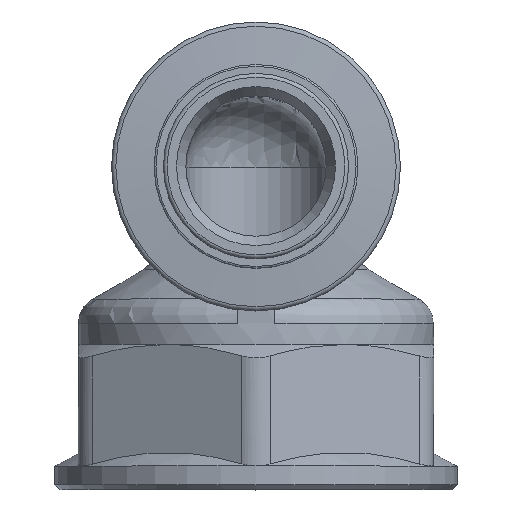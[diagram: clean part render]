
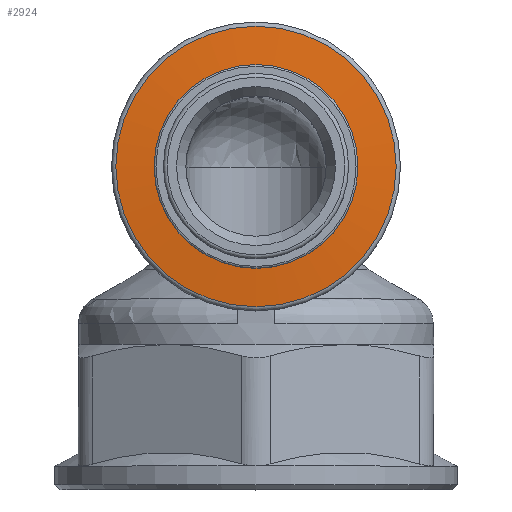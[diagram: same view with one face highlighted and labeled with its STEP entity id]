
A CAD part, top view. The second image highlights one B-rep face of the part: STEP entity #2924.
In plain terms, the highlighted conical face has half-angle 85 degrees and reference radius 12.653 mm.
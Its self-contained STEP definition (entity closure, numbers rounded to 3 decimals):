
#2924=ADVANCED_FACE('',(#5324,#5326),#5328,.T.);
#5324=FACE_OUTER_BOUND('',#5325,.T.);
#5325=EDGE_LOOP('',(#7689));
#5326=FACE_OUTER_BOUND('',#5327,.T.);
#5327=EDGE_LOOP('',(#7690));
#5328=CONICAL_SURFACE('',#5329,12.653,1.484);
#5329=AXIS2_PLACEMENT_3D('',#5330,#5331,#5332);
#5330=CARTESIAN_POINT('',(0.,0.,31.345));
#5331=DIRECTION('',(0.,0.,-1.));
#5332=DIRECTION('',(0.,-1.,0.));
#7689=ORIENTED_EDGE('',*,*,#8596,.T.);
#7690=ORIENTED_EDGE('',*,*,#8598,.T.);
#8596=EDGE_CURVE('',#10058,#10058,#10059,.T.);
#8598=EDGE_CURVE('',#10062,#10062,#10063,.F.);
#10058=VERTEX_POINT('',#15250);
#10059=CIRCLE('',#15251,14.994);
#10062=VERTEX_POINT('',#15260);
#10063=CIRCLE('',#15261,10.313);
#15250=CARTESIAN_POINT('',(0.,14.994,31.14));
#15251=AXIS2_PLACEMENT_3D('',#15252,#15253,#15254);
#15252=CARTESIAN_POINT('',(0.,0.,31.14));
#15253=DIRECTION('',(0.,0.,1.));
#15254=DIRECTION('',(0.,1.,0.));
#15260=CARTESIAN_POINT('',(0.,10.313,31.549));
#15261=AXIS2_PLACEMENT_3D('',#15262,#15263,#15264);
#15262=CARTESIAN_POINT('',(0.,0.,31.549));
#15263=DIRECTION('',(0.,0.,1.));
#15264=DIRECTION('',(0.,1.,0.));
